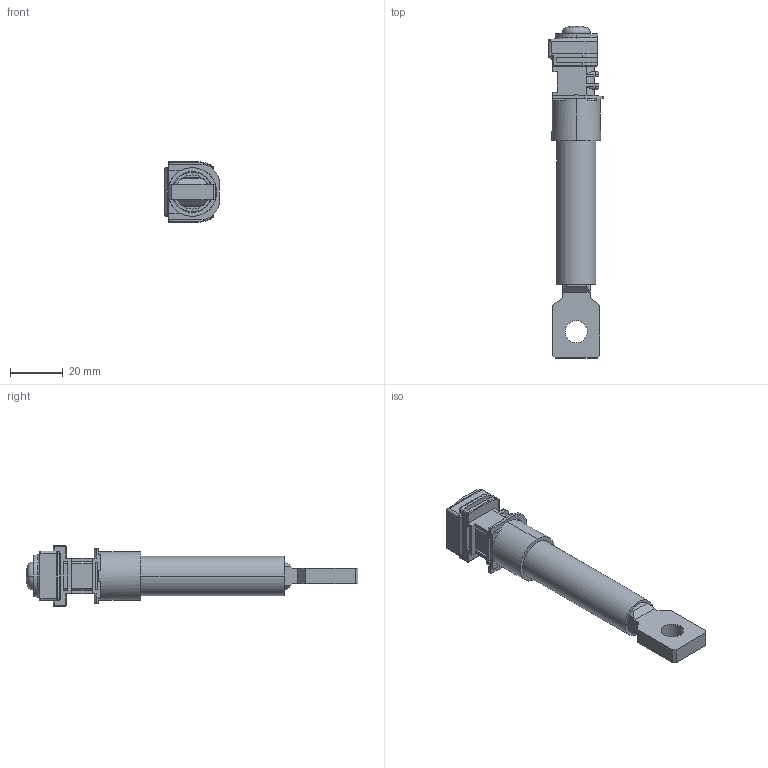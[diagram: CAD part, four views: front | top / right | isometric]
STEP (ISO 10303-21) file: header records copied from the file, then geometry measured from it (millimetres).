
FILE_DESCRIPTION((''),'2;1');
FILE_NAME('U1_LONG_REAR_CONDUCTOR_ASSY_ASM','2018-06-04T',('HHI'),(''),'PRO/ENGINEER BY PARAMETRIC TECHNOLOGY CORPORATION, 2012453','PRO/ENGINEER BY PARAMETRIC TECHNOLOGY CORPORATION, 2012453','');
FILE_SCHEMA(('CONFIG_CONTROL_DESIGN'));
Length unit declared in the file: millimetre
Products named in the file (9): U1_REAR_CONNDUCTOR_CASE; U1_LONG_REAR_CONDUCTOR; U1_REAR_CONNDUCTOR_PLATE; M6_L18_PH_SCREW; D6_ASSY2_SPRING_WASHER; D6_SMALL_PLAIN_WASHER; M6_L18_P_SW_PH_SCREW_ASM; U1_RCT_LONG_INSULATION_TUBE; U1_LONG_REAR_CONDUCTOR_ASSY_ASM
Assembly tree (8 placements, depth 3):
  U1_LONG_REAR_CONDUCTOR_ASSY_ASM
    U1_REAR_CONNDUCTOR_CASE
    U1_LONG_REAR_CONDUCTOR
    U1_REAR_CONNDUCTOR_PLATE
    M6_L18_P_SW_PH_SCREW_ASM
      M6_L18_PH_SCREW
      D6_ASSY2_SPRING_WASHER
      D6_SMALL_PLAIN_WASHER
    U1_RCT_LONG_INSULATION_TUBE
Bounding box: 20.8 x 126.48 x 23 mm (x, y, z)
Volume: 19990.6 mm3; surface area: 18677.3 mm2
Topology: 7 solids, 7 shells, 278 faces, 708 edges, 449 vertices
Faces by surface type: plane 169, cylinder 79, torus 13, bspline 8, sphere 6, cone 3
Entity records: 8899 total; most frequent: CARTESIAN_POINT 1941, DIRECTION 1418, ORIENTED_EDGE 1412, EDGE_CURVE 706, VECTOR 486, LINE 486, AXIS2_PLACEMENT_3D 466, VERTEX_POINT 449
